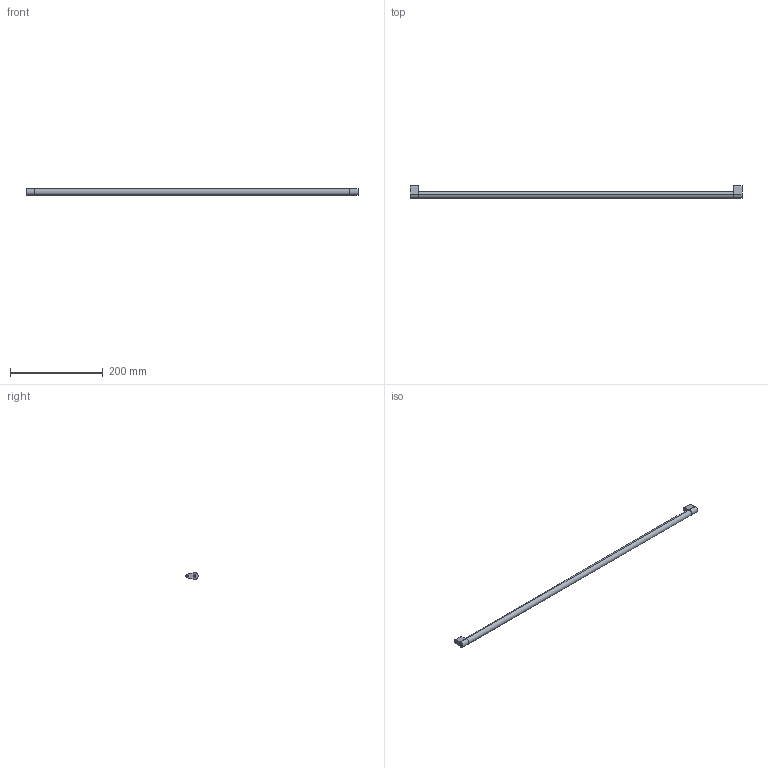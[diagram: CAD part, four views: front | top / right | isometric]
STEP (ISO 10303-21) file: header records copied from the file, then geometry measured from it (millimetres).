
FILE_DESCRIPTION (( 'STEP AP214' ), '1' );
FILE_NAME ('_Synchronisationseinheit Nova Pro KAB800_S16.step', '2010-07-08T13:58:32', ( 'grass' ), ( '' ), 'SwSTEP 2.0', 'SolidWorks 2010', '' );
FILE_SCHEMA (( 'AUTOMOTIVE_DESIGN' ));
Length unit declared in the file: millimetre
Products named in the file (1): _Synchronisationseinheit Nova Pro KAB800_S16
Bounding box: 715 x 26.5 x 14 mm (x, y, z)
Volume: 113752.5 mm3; surface area: 34294.3 mm2
Topology: 3 solids, 3 shells, 36 faces, 78 edges, 52 vertices
Faces by surface type: cylinder 18, plane 18
Entity records: 1050 total; most frequent: DIRECTION 188, CARTESIAN_POINT 167, ORIENTED_EDGE 156, EDGE_CURVE 78, AXIS2_PLACEMENT_3D 73, VERTEX_POINT 52, VECTOR 42, LINE 42
